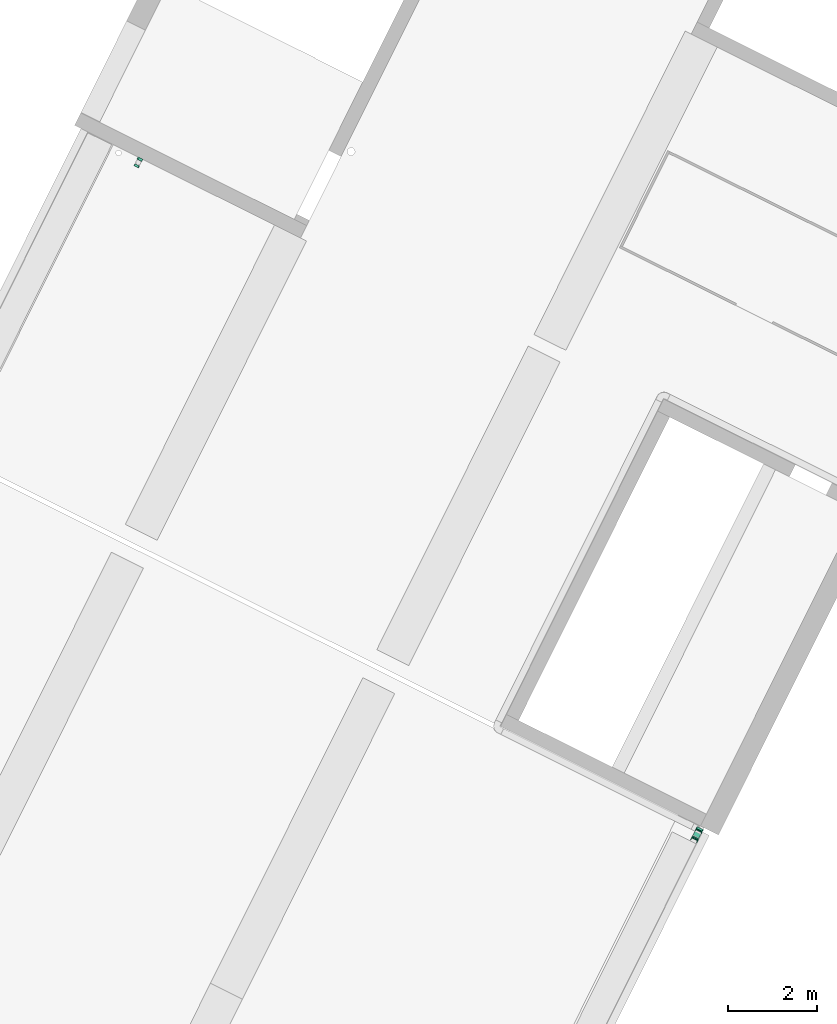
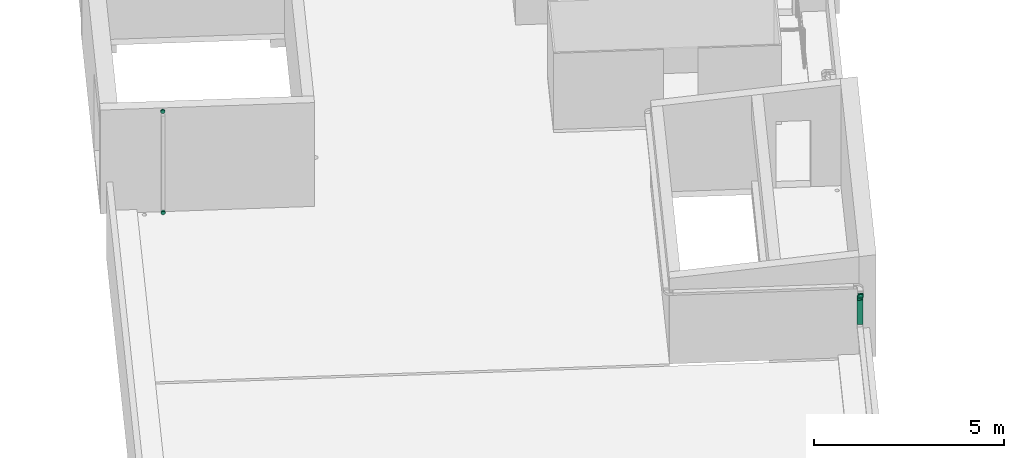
# One storey, part 18 of 34: 4 flow segments, 2 flow fittings.
"""IFC2X3 building model written with IfcOpenShell, lengths in metres."""

import ifcopenshell
import ifcopenshell.guid

model = None  # the IFC model being written
_history = None  # IfcOwnerHistory: only IFC2X3 demands one
_inside = {}  # id of a spatial element -> (the spatial element, [elements in it])
_under = {}  # id of a project, library or spatial element -> (it, [spatial elements below it])
_declared = {}  # id of a project -> (the project, [libraries it declares])
_typed = {}  # id of a type object -> (the type object, [elements of that type])
_made_of = {}  # id of a material, layer set ... -> (it, [elements and type objects made of it])


def new_model(schema):
    """Start an empty IFC model of exactly this schema.

    Asked for "IFC4X3", IfcOpenShell would pick the latest addendum, in which some entities
    have other attributes; the version numbers below select the first issue.
    IFC2X3 requires an IfcOwnerHistory on every rooted entity: one is made here for all.
    """
    global model, _history
    if schema == "IFC4X3":
        model = ifcopenshell.file(schema_version=(4, 3, 0, 0))
    else:
        model = ifcopenshell.file(schema=schema)
    _inside.clear()
    _under.clear()
    _declared.clear()
    _typed.clear()
    _made_of.clear()
    _history = None
    if model.schema == "IFC2X3":
        org = make("IfcOrganization", Name="unknown")
        user = make(
            "IfcPersonAndOrganization",
            ThePerson=make("IfcPerson", FamilyName="unknown"),
            TheOrganization=org,
        )
        app = make(
            "IfcApplication",
            ApplicationDeveloper=org,
            Version="unknown",
            ApplicationFullName="unknown",
            ApplicationIdentifier="unknown",
        )
        _history = make(
            "IfcOwnerHistory",
            OwningUser=user,
            OwningApplication=app,
            ChangeAction="ADDED",
            CreationDate=0,
        )
    return model


def make(cls, **values):
    """One entity of the class cls with the attributes given. An attribute that is None is left unset."""
    return model.create_entity(
        cls, **{name: value for name, value in values.items() if value is not None}
    )


def entity(cls, *values):
    """Any entity or typed value of the class cls, its attributes in the order of the schema. None: left unset."""
    e = model.create_entity(cls)
    for i, value in enumerate(values):
        if value is not None:
            e[i] = value
    return e


def rooted(cls, **values):
    """An entity with a GlobalId (a new one), such as an element, a storey or a relation."""
    return make(cls, GlobalId=ifcopenshell.guid.new(), OwnerHistory=_history, **values)


def si_unit(unit_type, name, prefix=None):
    """IfcSIUnit, for example si_unit("LENGTHUNIT", "METRE", prefix="MILLI")."""
    return make("IfcSIUnit", UnitType=unit_type, Prefix=prefix, Name=name)


def converted_unit(unit_type, name, factor, base, dimensions=None, offset=None):
    """IfcConversionBasedUnit, such as the inch: factor (a typed value) times the base unit."""
    return make(
        "IfcConversionBasedUnit"
        if offset is None
        else "IfcConversionBasedUnitWithOffset",
        ConversionOffset=offset,
        Dimensions=None
        if dimensions is None
        else entity("IfcDimensionalExponents", *dimensions),
        UnitType=unit_type,
        Name=name,
        ConversionFactor=make(
            "IfcMeasureWithUnit", ValueComponent=factor, UnitComponent=base
        ),
    )


def derived_unit(unit_type, elements):
    """IfcDerivedUnit: a product of units, each with its exponent."""
    return make(
        "IfcDerivedUnit",
        Elements=[
            make("IfcDerivedUnitElement", Unit=unit, Exponent=power)
            for unit, power in elements
        ],
        UnitType=unit_type,
    )


def assignment(units):
    """IfcUnitAssignment: the units of a project."""
    return None if units is None else make("IfcUnitAssignment", Units=units)


def point(xyz):
    """IfcCartesianPoint."""
    return None if xyz is None else make("IfcCartesianPoint", Coordinates=xyz)


def direction(xyz):
    """IfcDirection."""
    return None if xyz is None else make("IfcDirection", DirectionRatios=xyz)


def frame(location, z_axis=None, x_axis=None):
    """IfcAxis2Placement3D, a coordinate frame: its origin and axes. An axis left out is left unset."""
    return make(
        "IfcAxis2Placement3D",
        Location=point(location),
        Axis=direction(z_axis),
        RefDirection=direction(x_axis),
    )


def frame_2d(location, x_axis=None):
    """IfcAxis2Placement2D, a coordinate frame in the plane: its origin and x axis."""
    return make(
        "IfcAxis2Placement2D", Location=point(location), RefDirection=direction(x_axis)
    )


def origin():
    """The frame at (0, 0, 0) with its axes left unset."""
    return frame((0.0, 0.0, 0.0))


def origin_2d_with_axis():
    """The frame at (0, 0) in the plane with the x axis (1, 0) written out."""
    return frame_2d((0.0, 0.0), x_axis=(1.0, 0.0))


def place(relative_to, where):
    """IfcLocalPlacement: puts the frame where relative to a parent placement (None: the world)."""
    return make(
        "IfcLocalPlacement", PlacementRelTo=relative_to, RelativePlacement=where
    )


def context(
    kind, dimensions, precision=None, world=None, true_north=None, identifier=None
):
    """IfcGeometricRepresentationContext, for example the 3D "Model" context."""
    return make(
        "IfcGeometricRepresentationContext",
        ContextIdentifier=identifier,
        ContextType=kind,
        CoordinateSpaceDimension=dimensions,
        Precision=precision,
        WorldCoordinateSystem=world,
        TrueNorth=true_north,
    )


def subcontext(parent, identifier, kind, view, scale=None):
    """IfcGeometricRepresentationSubContext, for example "Body" below "Model"."""
    return make(
        "IfcGeometricRepresentationSubContext",
        ContextIdentifier=identifier,
        ContextType=kind,
        ParentContext=parent,
        TargetScale=scale,
        TargetView=view,
    )


def project(units=None, contexts=None):
    """IfcProject with its units and contexts."""
    return rooted(
        "IfcProject",
        Name="project",
        RepresentationContexts=contexts,
        UnitsInContext=assignment(units),
    )


def spatial(cls, under=None, at=None, **own):
    """A site, building, storey or space (cls), placed at a placement, below another one or the project."""
    s = rooted(cls, ObjectPlacement=at, **own)
    if under is not None:
        _under.setdefault(under.id(), (under, []))[1].append(s)
    return s


def profile(cls, at=None, kind="AREA", **sizes):
    """A parametric profile (cls). Its sizes go by their IFC names, for example OverallWidth=200.0."""
    return make(cls, ProfileType=kind, Position=at, **sizes)


def rectangle(**sizes):
    """IfcRectangleProfileDef."""
    return profile("IfcRectangleProfileDef", **sizes)


def circle(**sizes):
    """IfcCircleProfileDef."""
    return profile("IfcCircleProfileDef", **sizes)


def extrude(swept, where, along, depth):
    """IfcExtrudedAreaSolid: the profile swept, set in the frame where, extruded along a direction by depth."""
    return make(
        "IfcExtrudedAreaSolid",
        SweptArea=swept,
        Position=where,
        ExtrudedDirection=direction(along),
        Depth=depth,
    )


def faces_of(points, faces, orient=None, outer=None):
    """IfcFace entities. A face is a list of loops; a loop is a list of indices into points, from 0.

    orient and outer hold one flag for each loop. By default every Orientation is true, the
    first loop of a face is its IfcFaceOuterBound and the others are IfcFaceBound.
    """
    made = []
    for i, loops in enumerate(faces):
        bounds = []
        for j, loop in enumerate(loops):
            is_outer = j == 0 if outer is None else outer[i][j]
            bounds.append(
                make(
                    "IfcFaceOuterBound" if is_outer else "IfcFaceBound",
                    Bound=make("IfcPolyLoop", Polygon=[points[k] for k in loop]),
                    Orientation=True if orient is None else orient[i][j],
                )
            )
        made.append(make("IfcFace", Bounds=bounds))
    return made


def faceted_brep(points, faces, orient=None, outer=None, voids=None):
    """IfcFacetedBrep: a solid bounded by flat faces; with voids (closed shells), ...WithVoids."""
    shared = [point(p) for p in points]
    hull = make("IfcClosedShell", CfsFaces=faces_of(shared, faces, orient, outer))
    if voids is None:
        return make("IfcFacetedBrep", Outer=hull)
    return make(
        "IfcFacetedBrepWithVoids",
        Outer=hull,
        Voids=[
            make(cls, CfsFaces=faces_of(shared, fs, o, b)) for cls, fs, o, b in voids
        ],
    )


def shape(context_of_items, identifier, shape_type, items):
    """IfcShapeRepresentation: the items that make up one representation, for example the "Body"."""
    return make(
        "IfcShapeRepresentation",
        ContextOfItems=context_of_items,
        RepresentationIdentifier=identifier,
        RepresentationType=shape_type,
        Items=items,
    )


def source(mapping_origin, context_of_items, identifier, shape_type, items):
    """IfcRepresentationMap: a shape defined once, which mapped items show again and again."""
    return make(
        "IfcRepresentationMap",
        MappingOrigin=mapping_origin,
        MappedRepresentation=shape(context_of_items, identifier, shape_type, items),
    )


def transform(
    local_origin,
    x_axis=None,
    y_axis=None,
    z_axis=None,
    scale=None,
    scale2=None,
    scale3=None,
    uniform=True,
):
    """IfcCartesianTransformationOperator3D, or its non-uniform kind. x_axis, y_axis, z_axis: its Axis1, 2, 3."""
    if uniform:
        return make(
            "IfcCartesianTransformationOperator3D",
            Axis1=direction(x_axis),
            Axis2=direction(y_axis),
            LocalOrigin=point(local_origin),
            Scale=scale,
            Axis3=direction(z_axis),
        )
    return make(
        "IfcCartesianTransformationOperator3DnonUniform",
        Axis1=direction(x_axis),
        Axis2=direction(y_axis),
        LocalOrigin=point(local_origin),
        Scale=scale,
        Axis3=direction(z_axis),
        Scale2=scale2,
        Scale3=scale3,
    )


def mapped(mapping_source, mapping_target):
    """IfcMappedItem: shows the shape of a source again, moved by a transform."""
    return make(
        "IfcMappedItem", MappingSource=mapping_source, MappingTarget=mapping_target
    )


def made_of(thing, what):
    """Note that an element or type object is made of a material, layer set ...; save() writes the relation."""
    if what is not None:
        _made_of.setdefault(what.id(), (what, []))[1].append(thing)
    return thing


def type_object(cls, material=None, **own):
    """A type object (cls), such as IfcWallType, which elements share."""
    return made_of(rooted(cls, **own), material)


def type_shapes(of_type, sources):
    """Give a type object the sources (RepresentationMaps) that its elements show as mapped items."""
    of_type.RepresentationMaps = sources


def element(
    cls,
    number,
    at=None,
    inside=None,
    cuts=None,
    type_object=None,
    material=None,
    context=None,
    identifier="Body",
    shape_type=None,
    held_by="IfcProductDefinitionShape",
    body=None,
    shapes=None,
    **own,
):
    """One element of the class cls, such as IfcWall. Its Tag is "e" and its number.

    at: its placement. inside: the storey or other place that contains it. cuts: it is an
    opening in that element (IfcRelVoidsElement). A single representation is given by context,
    identifier, shape_type and body (its items); several are given by shapes. held_by: the class
    of the entity that holds the representations. save() writes the other relations.
    """
    e = rooted(cls, Tag="e%d" % number, ObjectPlacement=at, **own)
    if body is not None:
        shapes = [shape(context, identifier, shape_type, body)]
    if shapes is not None:
        e.Representation = make(held_by, Representations=shapes)
    if inside is not None:
        _inside.setdefault(inside.id(), (inside, []))[1].append(e)
    if cuts is not None:
        rooted(
            "IfcRelVoidsElement", RelatingBuildingElement=cuts, RelatedOpeningElement=e
        )
    if type_object is not None:
        _typed.setdefault(type_object.id(), (type_object, []))[1].append(e)
    return made_of(e, material)


def aggregate(whole, parts):
    """IfcRelAggregates: a whole, such as a stair, and the parts it consists of."""
    return rooted("IfcRelAggregates", RelatingObject=whole, RelatedObjects=parts)


def save(model, path):
    """Write the relations noted so far, then the file.

    IfcRelAggregates (storeys below a building ...), IfcRelContainedInSpatialStructure (elements
    in a storey), IfcRelDefinesByType, IfcRelAssociatesMaterial and IfcRelDeclares: one each for
    every whole, place, type object, material and project.
    """
    for whole, parts in _under.values():
        aggregate(whole, parts)
    for where, things in _inside.values():
        rooted(
            "IfcRelContainedInSpatialStructure",
            RelatedElements=things,
            RelatingStructure=where,
        )
    for kind, things in _typed.values():
        rooted("IfcRelDefinesByType", RelatedObjects=things, RelatingType=kind)
    for what, things in _made_of.values():
        rooted("IfcRelAssociatesMaterial", RelatedObjects=things, RelatingMaterial=what)
    for by, libraries in _declared.values():
        rooted("IfcRelDeclares", RelatingContext=by, RelatedDefinitions=libraries)
    model.write(path)


model = new_model("IFC2X3")

# Units and contexts
model_context = context("Model", 3, precision=1e-05, world=origin(), true_north=direction((0.894925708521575, 0.446215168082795)))
context_of_model = context(None, 3, precision=1e-05, world=origin(), true_north=direction((0.894925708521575, 0.446215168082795)))
body_context = subcontext(model_context, "Body", "Model", "MODEL_VIEW")
ifc_project = project(units=[si_unit("LENGTHUNIT", "METRE"), si_unit("AREAUNIT", "SQUARE_METRE"), si_unit("VOLUMEUNIT", "CUBIC_METRE"), converted_unit("PLANEANGLEUNIT", "DEGREE", entity("IfcRatioMeasure", 0.0174532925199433), si_unit("PLANEANGLEUNIT", "RADIAN"), dimensions=[0, 0, 0, 0, 0, 0, 0]), si_unit("MASSUNIT", "GRAM", prefix="KILO"), si_unit("TIMEUNIT", "SECOND"), si_unit("FREQUENCYUNIT", "HERTZ"), si_unit("THERMODYNAMICTEMPERATUREUNIT", "DEGREE_CELSIUS"), derived_unit("THERMALTRANSMITTANCEUNIT", [(si_unit("MASSUNIT", "GRAM", prefix="KILO"), 1), (si_unit("THERMODYNAMICTEMPERATUREUNIT", "KELVIN"), -1), (si_unit("TIMEUNIT", "SECOND"), -3)]), derived_unit("VOLUMETRICFLOWRATEUNIT", [(si_unit("LENGTHUNIT", "METRE"), 3), (si_unit("TIMEUNIT", "SECOND"), -1)]), si_unit("ELECTRICCURRENTUNIT", "AMPERE"), si_unit("ELECTRICVOLTAGEUNIT", "VOLT"), si_unit("POWERUNIT", "WATT"), si_unit("FORCEUNIT", "NEWTON", prefix="KILO"), si_unit("ILLUMINANCEUNIT", "LUX"), si_unit("LUMINOUSFLUXUNIT", "LUMEN"), si_unit("LUMINOUSINTENSITYUNIT", "CANDELA"), si_unit("PRESSUREUNIT", "PASCAL")], contexts=[model_context, context_of_model])

# Site, building, storey
site_placement = place(None, frame((218.228324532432, 584.720189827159, 0.0), z_axis=(0.0, 0.0, 1.0), x_axis=(0.446215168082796, 0.894925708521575, 0.0)))
site = spatial("IfcSite", under=ifc_project, at=site_placement, Name="Default", CompositionType="ELEMENT")
building_placement = place(site_placement, origin())
building = spatial("IfcBuilding", under=site, at=building_placement, CompositionType="ELEMENT")
storey_placement = place(building_placement, frame((0.0, 0.0, 8.61)))
storey = spatial("IfcBuildingStorey", under=building, at=storey_placement, Name="2 - Piano Secondo", CompositionType="ELEMENT", Elevation=8.61)

# Flow segments
cable_carrier_segment_type = type_object("IfcCableCarrierSegmentType", Name="Passerella con raccordi:Passerella canale", PredefinedType="NOTDEFINED")
flow_segment_1_placement = place(storey_placement, frame((-12.9093716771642, -13.2010789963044, 1.14249999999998)))
element("IfcFlowSegment", 1, at=flow_segment_1_placement, inside=storey, type_object=cable_carrier_segment_type, Name="Passerella con raccordi:Passerella canale", ObjectType="Passerella con raccordi:Passerella canale", context=body_context, shape_type="SweptSolid", body=[
    extrude(rectangle(XDim=0.150000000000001, YDim=0.0750000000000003, at=origin_2d_with_axis()), frame((0.0375000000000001, 0.0750000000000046, 0.0), z_axis=(0.0, 0.0, 1.0), x_axis=(0.0, 1.0, 0.0)), (0.0, 0.0, 1.0), 0.777365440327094),
])
flow_segment_2_placement = place(storey_placement, frame((-13.1138691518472, -13.2010789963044, 1.97668524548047)))
element("IfcFlowSegment", 2, at=flow_segment_2_placement, inside=storey, type_object=cable_carrier_segment_type, Name="Passerella con raccordi:Passerella canale", ObjectType="Passerella con raccordi:Passerella canale", context=body_context, shape_type="SweptSolid", body=[
    extrude(rectangle(XDim=0.0749999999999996, YDim=0.150000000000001, at=frame_2d((0.0, 0.0), x_axis=(0.0, 1.0))), frame((0.20747844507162, 0.0750000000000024, 0.0265165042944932), z_axis=(-0.707106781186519, 0.0, 0.707106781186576), x_axis=(0.0, 1.0, 0.0)), (0.0, 0.0, 1.0), 0.25591883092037),
])

# Flow fittings
cable_carrier_fitting_type_1 = type_object("IfcCableCarrierFittingType", Name="Standard", PredefinedType="NOTDEFINED")
shared_shape_1 = source(origin(), body_context, "Body", "Brep", [
    faceted_brep([(-0.0488172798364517, -0.0374999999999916, -0.0750000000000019), (-0.0488172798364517, -0.0374999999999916, 0.0749999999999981), (-0.0488172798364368, 0.0375000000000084, 0.0749999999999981), (-0.0488172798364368, 0.0375000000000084, 0.0724600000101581), (-0.0488172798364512, -0.0349600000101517, 0.0724600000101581), (-0.0488172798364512, -0.0349600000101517, -0.0724600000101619), (-0.0488172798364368, 0.0375000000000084, -0.0724600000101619), (-0.0488172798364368, 0.0375000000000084, -0.0750000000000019), (0.0610355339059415, -0.00800252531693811, -0.0750000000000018), (0.0610355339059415, -0.00800252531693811, -0.0724600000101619), (0.00979857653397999, -0.0592394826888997, -0.0724600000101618), (0.00979857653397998, -0.0592394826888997, 0.0724600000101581), (0.0610355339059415, -0.00800252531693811, 0.0724600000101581), (0.0610355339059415, -0.00800252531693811, 0.0749999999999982), (0.00800252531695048, -0.0610355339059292, 0.0749999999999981), (0.00800252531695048, -0.0610355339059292, -0.0750000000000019), (-0.0238172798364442, -0.0374999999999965, 0.0749999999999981), (-0.0199904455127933, -0.0382612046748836, 0.0749999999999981), (-0.0161636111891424, -0.0390224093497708, 0.0749999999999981), (-0.0141517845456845, -0.0403666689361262, 0.0749999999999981), (-0.0096751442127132, -0.0433578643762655, 0.0749999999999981), (0.0433578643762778, 0.00967514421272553, 0.0749999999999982), (0.0335202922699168, 0.0172237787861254, 0.0749999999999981), (0.0236827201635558, 0.0247724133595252, 0.0749999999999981), (0.0122266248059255, 0.0295176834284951, 0.0749999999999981), (0.000770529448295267, 0.034262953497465, 0.0749999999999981), (-0.0133030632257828, 0.036115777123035, 0.0749999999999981), (-0.0238172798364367, 0.0375000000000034, 0.0749999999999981), (-0.0238172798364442, -0.0374999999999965, -0.0750000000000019), (-0.0238172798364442, -0.0374999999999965, -0.0030768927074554), (-0.0238172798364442, 0.0375000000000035, -0.0750000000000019), (-0.0133030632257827, 0.036115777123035, -0.0750000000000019), (0.000770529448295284, 0.034262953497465, -0.0750000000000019), (0.0122266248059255, 0.0295176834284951, -0.0750000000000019), (0.0236827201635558, 0.0247724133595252, -0.0750000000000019), (0.0335202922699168, 0.0172237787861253, -0.0750000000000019), (0.0433578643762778, 0.00967514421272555, -0.0750000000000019), (-0.00967514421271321, -0.0433578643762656, -0.0750000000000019), (-0.0129193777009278, -0.0411901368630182, -0.0750000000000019), (-0.0161636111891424, -0.0390224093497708, -0.0750000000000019), (-0.0185367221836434, -0.0385503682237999, -0.0750000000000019), (-0.0238172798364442, 0.0375000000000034, -0.0724600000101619), (-0.0238172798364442, 0.0375000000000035, 0.0724600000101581), (-0.0238172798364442, -0.0349600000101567, -0.0724600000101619), (-0.0182114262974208, -0.0360750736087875, -0.0724600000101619), (-0.0151915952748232, -0.0366757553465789, -0.0724600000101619), (-0.0115353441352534, -0.0391187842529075, -0.0724600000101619), (-0.00787909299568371, -0.041561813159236, -0.0724600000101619), (0.0433578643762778, 0.00967514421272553, -0.0724600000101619), (0.0349443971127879, 0.0161310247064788, -0.0724600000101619), (0.0236827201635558, 0.0247724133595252, -0.0724600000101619), (0.0122266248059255, 0.0295176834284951, -0.0724600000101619), (0.000770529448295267, 0.034262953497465, -0.0724600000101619), (-0.0115233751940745, 0.0358814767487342, -0.0724600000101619), (-0.0238172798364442, -0.0349600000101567, 0.0724600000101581), (-0.0238172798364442, -0.0349600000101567, -0.0104266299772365), (-0.0115233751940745, 0.0358814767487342, 0.0724600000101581), (0.000770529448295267, 0.034262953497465, 0.0724600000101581), (0.0122266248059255, 0.0295176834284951, 0.0724600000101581), (0.0236827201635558, 0.0247724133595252, 0.0724600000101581), (0.0335202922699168, 0.0172237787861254, 0.0724600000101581), (0.0433578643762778, 0.00967514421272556, 0.0724600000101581), (-0.00787909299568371, -0.0415618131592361, 0.0724600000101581), (-0.012631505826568, -0.0383863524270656, 0.0724600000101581), (-0.0151915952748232, -0.0366757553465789, 0.0724600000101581), (-0.0195044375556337, -0.0358178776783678, 0.0724600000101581), (-0.0173020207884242, -0.0385909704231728, 0.0), (-0.00967514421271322, -0.0433578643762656, 0.00307688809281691), (-0.0132021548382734, -0.0405495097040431, -0.00928633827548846), (-0.0166423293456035, -0.0361324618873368, 0.0), (-0.00787909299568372, -0.041561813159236, 0.0104266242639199), (-0.0120504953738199, -0.0382751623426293, -0.000444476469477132)], [[[0, 1, 2, 3, 4, 5, 6, 7]], [[8, 9, 10, 11, 12, 13, 14, 15]], [[1, 16, 17, 18, 19, 20, 14, 13, 21, 22, 23, 24, 25, 26, 27, 2]], [[16, 1, 0, 28, 29]], [[7, 30, 31, 32, 33, 34, 35, 36, 8, 15, 37, 38, 39, 40, 28, 0]], [[41, 30, 7, 6]], [[27, 42, 3, 2]], [[5, 43, 44, 45, 46, 47, 10, 9, 48, 49, 50, 51, 52, 53, 41, 6]], [[43, 5, 4, 54, 55]], [[3, 42, 56, 57, 58, 59, 60, 61, 12, 11, 62, 63, 64, 65, 54, 4]], [[66, 17, 29]], [[37, 67, 68]], [[39, 66, 40]], [[29, 28, 40]], [[16, 29, 17]], [[66, 18, 17]], [[18, 66, 19]], [[37, 68, 39, 38]], [[40, 66, 29]], [[19, 66, 68]], [[67, 20, 19]], [[19, 68, 67]], [[39, 68, 66]], [[52, 32, 31, 30, 41, 53]], [[57, 56, 42, 27, 26, 25]], [[51, 50, 34, 33, 32, 52]], [[59, 58, 57, 25, 24, 23]], [[36, 35, 34, 50, 49, 48]], [[61, 60, 59, 23, 22, 21]], [[69, 55, 65]], [[70, 47, 46]], [[63, 62, 70]], [[71, 46, 45]], [[69, 44, 55]], [[70, 71, 63]], [[71, 69, 64]], [[65, 64, 69]], [[44, 69, 45]], [[65, 55, 54]], [[44, 43, 55]], [[63, 71, 64]], [[69, 71, 45]], [[46, 71, 70]], [[14, 20, 67, 37, 15]], [[8, 36, 48, 9]], [[12, 61, 21, 13]], [[10, 47, 70, 62, 11]]]),
])
type_shapes(cable_carrier_fitting_type_1, [shared_shape_1])
flow_fitting_1_placement = place(storey_placement, frame((-13.1218716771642, -13.1260789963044, 2.21868272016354), z_axis=(0.0, -1.0, 0.0), x_axis=(-0.707106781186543, 0.0, 0.707106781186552)))
element("IfcFlowFitting", 3, at=flow_fitting_1_placement, inside=storey, type_object=cable_carrier_fitting_type_1, Name="M_Curvatura esterna verticale canale:Standard", ObjectType="Standard", context=body_context, shape_type="MappedRepresentation", body=[
    mapped(shared_shape_1, transform((0.0, 0.0, 0.0), scale=1.0)),
])
cable_carrier_fitting_type_2 = type_object("IfcCableCarrierFittingType", Name="Standard", PredefinedType="NOTDEFINED")
shared_shape_2 = source(origin(), body_context, "Body", "Brep", [
    faceted_brep([(-0.0488172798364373, -0.0349600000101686, -0.0724600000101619), (-0.0488172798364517, 0.0374999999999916, -0.0724600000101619), (-0.0488172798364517, 0.0374999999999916, -0.0750000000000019), (-0.0488172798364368, -0.0375000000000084, -0.0750000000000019), (-0.0488172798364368, -0.0375000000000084, 0.0749999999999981), (-0.0488172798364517, 0.0374999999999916, 0.0749999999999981), (-0.0488172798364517, 0.0374999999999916, 0.0724600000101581), (-0.0488172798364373, -0.0349600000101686, 0.0724600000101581), (0.00800252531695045, 0.0610355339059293, -0.0750000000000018), (0.00800252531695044, 0.0610355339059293, -0.0724600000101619), (0.059239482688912, 0.00979857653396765, -0.0724600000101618), (0.059239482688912, 0.00979857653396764, 0.0724600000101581), (0.00800252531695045, 0.0610355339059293, 0.0724600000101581), (0.00800252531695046, 0.0610355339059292, 0.0749999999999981), (0.0610355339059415, 0.00800252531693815, 0.0749999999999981), (0.0610355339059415, 0.00800252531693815, -0.0750000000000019), (-0.0238172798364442, -0.0375000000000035, 0.0749999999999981), (0.000770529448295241, -0.034262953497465, 0.0749999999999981), (0.0236827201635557, -0.0247724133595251, 0.0749999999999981), (0.0433578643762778, -0.00967514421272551, 0.0749999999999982), (-0.00967514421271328, 0.0433578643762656, 0.0749999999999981), (-0.0129193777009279, 0.0411901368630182, 0.0749999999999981), (-0.0161636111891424, 0.0390224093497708, 0.0749999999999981), (-0.0199904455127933, 0.0382612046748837, 0.0749999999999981), (-0.0238172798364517, 0.0374999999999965, 0.0749999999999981), (-0.0238172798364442, -0.0375000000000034, -0.0750000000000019), (-0.0238172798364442, 0.0374999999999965, -0.0750000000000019), (-0.0190619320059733, 0.0384458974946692, -0.0750000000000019), (-0.0161636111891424, 0.0390224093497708, -0.0750000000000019), (-0.0129193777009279, 0.0411901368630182, -0.0750000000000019), (-0.00967514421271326, 0.0433578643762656, -0.0750000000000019), (0.0433578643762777, -0.00967514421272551, -0.0750000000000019), (0.0236827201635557, -0.0247724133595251, -0.0750000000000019), (0.000770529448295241, -0.034262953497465, -0.0750000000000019), (-0.0238172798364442, 0.0374999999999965, -0.0724600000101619), (-0.0238172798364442, 0.0374999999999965, 0.0724600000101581), (-0.0238172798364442, -0.0349600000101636, -0.0724600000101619), (0.000113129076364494, -0.0318095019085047, -0.0724600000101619), (0.0224127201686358, -0.0225727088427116, -0.0724600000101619), (0.0415618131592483, -0.007879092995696, -0.0724600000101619), (-0.00967514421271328, 0.0433578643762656, -0.0724600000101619), (-0.0129193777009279, 0.0411901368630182, -0.0724600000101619), (-0.0161636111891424, 0.0390224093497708, -0.0724600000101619), (-0.0199904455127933, 0.0382612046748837, -0.0724600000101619), (-0.0238172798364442, -0.0349600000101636, 0.0724600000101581), (-0.0199904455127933, 0.0382612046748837, 0.0724600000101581), (-0.0161636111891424, 0.0390224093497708, 0.0724600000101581), (-0.0137065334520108, 0.0406641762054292, 0.0724600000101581), (-0.00967514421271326, 0.0433578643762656, 0.0724600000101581), (0.0415618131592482, -0.007879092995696, 0.0724600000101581), (0.0224127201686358, -0.0225727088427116, 0.0724600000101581), (0.000113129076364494, -0.0318095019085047, 0.0724600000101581)], [[[0, 1, 2, 3, 4, 5, 6, 7]], [[8, 9, 10, 11, 12, 13, 14, 15]], [[4, 16, 17, 18, 19, 14, 13, 20, 21, 22, 23, 24, 5]], [[4, 3, 25, 16]], [[2, 26, 27, 28, 29, 30, 8, 15, 31, 32, 33, 25, 3]], [[2, 1, 34, 26]], [[6, 5, 24, 35]], [[0, 36, 37, 38, 39, 10, 9, 40, 41, 42, 43, 34, 1]], [[0, 7, 44, 36]], [[6, 35, 45, 46, 47, 48, 12, 11, 49, 50, 51, 44, 7]], [[25, 33, 17, 16]], [[33, 32, 18, 17]], [[32, 31, 19, 18]], [[28, 27, 26, 34, 43, 42]], [[24, 23, 22, 46, 45, 35]], [[29, 28, 42, 41, 40, 30]], [[21, 20, 48, 47, 46, 22]], [[44, 51, 37, 36]], [[51, 50, 38, 37]], [[50, 49, 39, 38]], [[19, 31, 15, 14]], [[30, 40, 9, 8]], [[48, 20, 13, 12]], [[39, 49, 11, 10]]]),
])
type_shapes(cable_carrier_fitting_type_2, [shared_shape_2])
flow_fitting_2_placement = place(storey_placement, frame((-12.8718716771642, -13.1260789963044, 1.96868272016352), z_axis=(0.0, -1.0, 0.0), x_axis=(0.0, 0.0, 1.0)))
element("IfcFlowFitting", 4, at=flow_fitting_2_placement, inside=storey, type_object=cable_carrier_fitting_type_2, Name="M_Curvatura interna verticale canale:Standard", ObjectType="Standard", context=body_context, shape_type="MappedRepresentation", body=[
    mapped(shared_shape_2, transform((0.0, 0.0, 0.0), scale=1.0)),
])

# Flow segments
pipe_segment_type = type_object("IfcPipeSegmentType", Name="Tubazione:Pluviale-Tubazione Inox", PredefinedType="NOTDEFINED")
flow_segment_3_placement = place(storey_placement, frame((-5.20167252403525, 4.75017573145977, 0.0484047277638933)))
element("IfcFlowSegment", 5, at=flow_segment_3_placement, inside=storey, type_object=pipe_segment_type, Name="Tubazione:Pluviale-Tubazione Inox", ObjectType="Tubazione:Pluviale-Tubazione Inox", context=body_context, shape_type="SweptSolid", body=[
    extrude(circle(Radius=0.05715, at=origin_2d_with_axis()), frame((0.0, 0.0587452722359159, 0.0587452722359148), z_axis=(1.0, 0.0, 0.0), x_axis=(0.0, 1.0, 0.0)), (0.0, 0.0, 1.0), 0.0499999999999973),
])
flow_segment_4_placement = place(storey_placement, frame((-5.03419752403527, 4.75017573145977, 3.18840472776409)))
element("IfcFlowSegment", 6, at=flow_segment_4_placement, inside=storey, type_object=pipe_segment_type, Name="Tubazione:Pluviale-Tubazione Inox", ObjectType="Tubazione:Pluviale-Tubazione Inox", context=body_context, shape_type="SweptSolid", body=[
    extrude(circle(Radius=0.05715, at=origin_2d_with_axis()), frame((0.0, 0.0587452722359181, 0.0587452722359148), z_axis=(1.0, 0.0, 0.0), x_axis=(0.0, -1.0, 0.0)), (0.0, 0.0, 1.0), 0.046262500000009),
])

save(model, "model.ifc")
